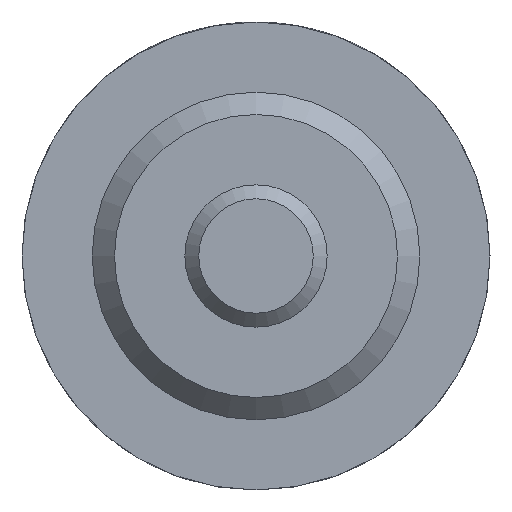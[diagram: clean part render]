
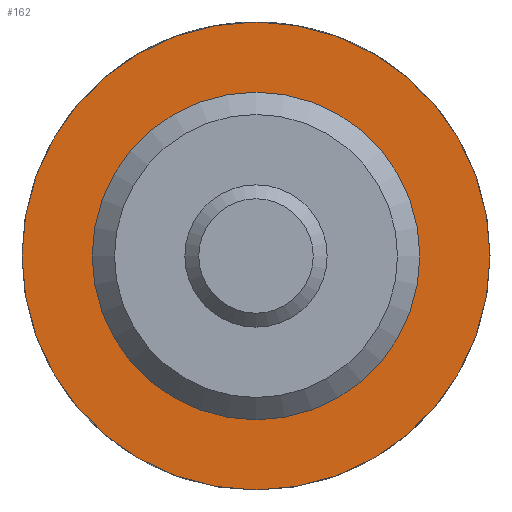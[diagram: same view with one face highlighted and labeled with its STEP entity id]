
A CAD part, left-side view. The second image highlights one B-rep face of the part: STEP entity #162.
In plain terms, the highlighted planar face has unit normal (-1, 0, 0).
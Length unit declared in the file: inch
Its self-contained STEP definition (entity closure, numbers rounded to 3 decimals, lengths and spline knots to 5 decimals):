
#162 = ADVANCED_FACE( '', ( #332, #333 ), #334, .F. );
#332 = FACE_OUTER_BOUND( '', #508, .T. );
#333 = FACE_BOUND( '', #509, .T. );
#334 = PLANE( '', #510 );
#508 = EDGE_LOOP( '', ( #739 ) );
#509 = EDGE_LOOP( '', ( #740 ) );
#510 = AXIS2_PLACEMENT_3D( '', #741, #742, #743 );
#739 = ORIENTED_EDGE( '', *, *, #880, .F. );
#740 = ORIENTED_EDGE( '', *, *, #902, .T. );
#741 = CARTESIAN_POINT( '', ( 0.375, 0.2185, 0. ) );
#742 = DIRECTION( '', ( 1., 0., 0. ) );
#743 = DIRECTION( '', ( 0., 0., -1. ) );
#880 = EDGE_CURVE( '', #999, #999, #1000, .T. );
#902 = EDGE_CURVE( '', #1033, #1033, #1034, .T. );
#999 = VERTEX_POINT( '', #1152 );
#1000 = CIRCLE( '', #1153, 0.3125 );
#1033 = VERTEX_POINT( '', #1258 );
#1034 = CIRCLE( '', #1259, 0.2185 );
#1152 = CARTESIAN_POINT( '', ( 0.375, 0., -0.3125 ) );
#1153 = AXIS2_PLACEMENT_3D( '', #1432, #1433, #1434 );
#1258 = CARTESIAN_POINT( '', ( 0.375, 0., -0.2185 ) );
#1259 = AXIS2_PLACEMENT_3D( '', #1465, #1466, #1467 );
#1432 = CARTESIAN_POINT( '', ( 0.375, 0., 0. ) );
#1433 = DIRECTION( '', ( 1., 0., 0. ) );
#1434 = DIRECTION( '', ( 0., 0., -1. ) );
#1465 = CARTESIAN_POINT( '', ( 0.375, 0., 0. ) );
#1466 = DIRECTION( '', ( 1., 0., 0. ) );
#1467 = DIRECTION( '', ( 0., 0., -1. ) );
